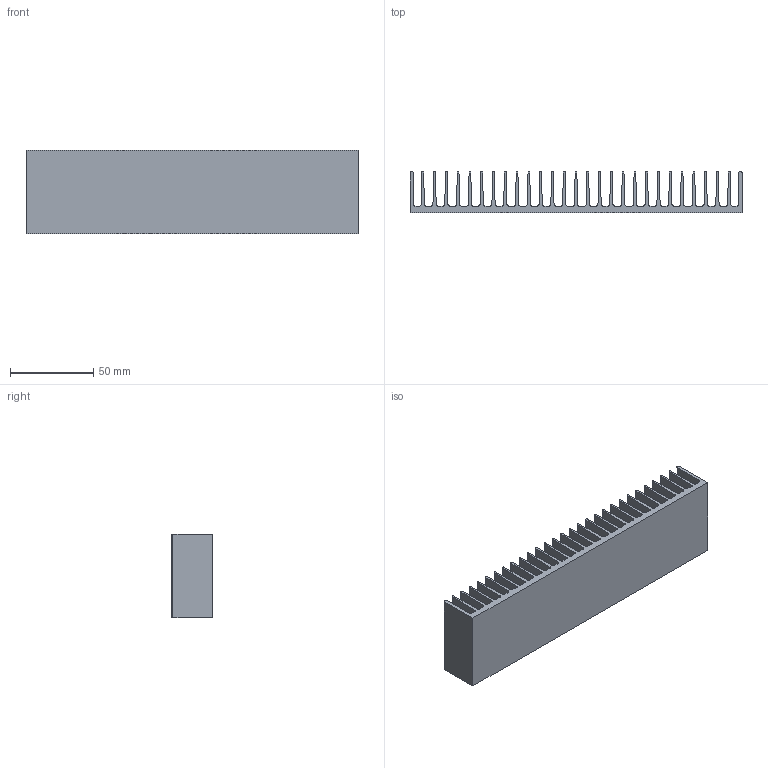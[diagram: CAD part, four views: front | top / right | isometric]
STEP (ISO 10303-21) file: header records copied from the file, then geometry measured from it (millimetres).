
FILE_DESCRIPTION (( 'STEP AP203' ), '1' );
FILE_NAME ('PR 165-50.step', '2002-10-21T08:00:31', ( 'Wolfgang Müller' ), ( 'DPS' ), 'SwSTEP 2.0', 'SolidWorks 2002264', '' );
FILE_SCHEMA (( 'CONFIG_CONTROL_DESIGN' ));
Length unit declared in the file: millimetre
Products named in the file (1): PR 165-50
Bounding box: 200 x 25 x 50 mm (x, y, z)
Volume: 86772.6 mm3; surface area: 81634.6 mm2
Topology: 1 solids, 1 shells, 174 faces, 516 edges, 344 vertices
Faces by surface type: plane 89, cylinder 85
Entity records: 5947 total; most frequent: DIRECTION 1036, CARTESIAN_POINT 1035, ORIENTED_EDGE 1032, EDGE_CURVE 516, LINE 346, VECTOR 346, AXIS2_PLACEMENT_3D 345, VERTEX_POINT 344
